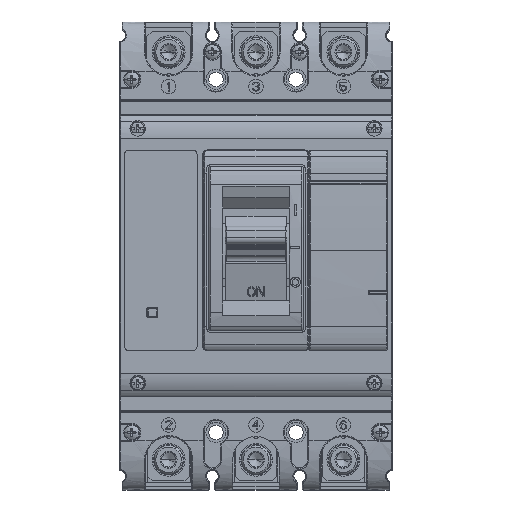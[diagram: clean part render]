
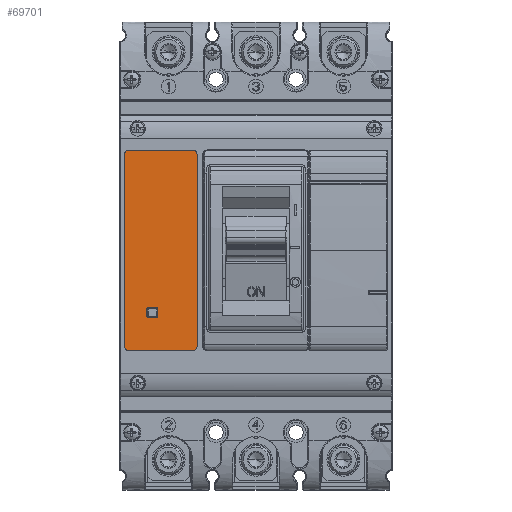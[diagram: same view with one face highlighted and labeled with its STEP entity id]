
A CAD part, top view. The second image highlights one B-rep face of the part: STEP entity #69701.
In plain terms, the highlighted planar face has unit normal (0, 0, 1) as drawn and (0, 1, 0) by its records, which use the part's own axes.
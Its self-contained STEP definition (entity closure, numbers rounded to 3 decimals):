
#3895 = ORIENTED_EDGE ( 'NONE', *, *, #137100, .T. ) ;
#3917 = VECTOR ( 'NONE', #70151, 1000. ) ;
#4614 = CARTESIAN_POINT ( 'NONE',  ( -70.2, 68.4, -55.9 ) ) ;
#5329 = CARTESIAN_POINT ( 'NONE',  ( -70.2, 68.4, 51.9 ) ) ;
#5619 = CARTESIAN_POINT ( 'NONE',  ( -34.4, 68.4, 51.9 ) ) ;
#8511 = CARTESIAN_POINT ( 'NONE',  ( -70.2, 68.4, -57.9 ) ) ;
#9488 = EDGE_CURVE ( 'NONE', #82910, #101829, #97426, .T. ) ;
#10422 = ORIENTED_EDGE ( 'NONE', *, *, #110750, .F. ) ;
#10463 = VERTEX_POINT ( 'NONE', #67632 ) ;
#10819 = ORIENTED_EDGE ( 'NONE', *, *, #40964, .T. ) ;
#12405 = CARTESIAN_POINT ( 'NONE',  ( -59.925, 68.4, 29.275 ) ) ;
#14069 = ORIENTED_EDGE ( 'NONE', *, *, #109201, .T. ) ;
#14501 = VERTEX_POINT ( 'NONE', #140572 ) ;
#15766 = LINE ( 'NONE', #5619, #3917 ) ;
#17049 = CIRCLE ( 'NONE', #44899, 1. ) ;
#17726 = AXIS2_PLACEMENT_3D ( 'NONE', #99736, #88895, #133076 ) ;
#17838 = VERTEX_POINT ( 'NONE', #20443 ) ;
#19822 = CARTESIAN_POINT ( 'NONE',  ( -55.075, 68.4, 28.275 ) ) ;
#20089 = CIRCLE ( 'NONE', #17726, 2. ) ;
#20443 = CARTESIAN_POINT ( 'NONE',  ( -54.075, 68.4, 33.125 ) ) ;
#20657 = CARTESIAN_POINT ( 'NONE',  ( -55.075, 68.4, 34.125 ) ) ;
#23916 = CARTESIAN_POINT ( 'NONE',  ( -70.2, 68.4, 49.9 ) ) ;
#26676 = VERTEX_POINT ( 'NONE', #46358 ) ;
#26879 = DIRECTION ( 'NONE',  ( 1., 0., 0. ) ) ;
#27238 = CIRCLE ( 'NONE', #101322, 1. ) ;
#27669 = VERTEX_POINT ( 'NONE', #63878 ) ;
#28510 = DIRECTION ( 'NONE',  ( 0., -1., 0. ) ) ;
#28532 = DIRECTION ( 'NONE',  ( 0., 0., -1. ) ) ;
#28930 = ORIENTED_EDGE ( 'NONE', *, *, #97937, .F. ) ;
#29056 = EDGE_LOOP ( 'NONE', ( #62764, #81681, #107950, #3895, #74613, #10819, #71265, #14069 ) ) ;
#29738 = CARTESIAN_POINT ( 'NONE',  ( -32.4, 68.4, -55.9 ) ) ;
#32023 = EDGE_CURVE ( 'NONE', #88118, #17838, #27238, .T. ) ;
#32137 = CARTESIAN_POINT ( 'NONE',  ( -58.925, 68.4, 28.275 ) ) ;
#32437 = EDGE_CURVE ( 'NONE', #46184, #10463, #99052, .T. ) ;
#32484 = VECTOR ( 'NONE', #79968, 1000. ) ;
#34014 = CARTESIAN_POINT ( 'NONE',  ( -58.925, 68.4, 33.125 ) ) ;
#35002 = LINE ( 'NONE', #100972, #32484 ) ;
#35536 = EDGE_CURVE ( 'NONE', #10463, #49191, #15766, .T. ) ;
#37005 = VERTEX_POINT ( 'NONE', #126276 ) ;
#38306 = EDGE_CURVE ( 'NONE', #86556, #39606, #105981, .T. ) ;
#39606 = VERTEX_POINT ( 'NONE', #12405 ) ;
#40585 = CARTESIAN_POINT ( 'NONE',  ( -32.4, 68.4, -55.9 ) ) ;
#40964 = EDGE_CURVE ( 'NONE', #82910, #17838, #45614, .T. ) ;
#44899 = AXIS2_PLACEMENT_3D ( 'NONE', #34014, #102083, #47037 ) ;
#45273 = AXIS2_PLACEMENT_3D ( 'NONE', #23916, #55823, #89898 ) ;
#45614 = LINE ( 'NONE', #72147, #53206 ) ;
#46184 = VERTEX_POINT ( 'NONE', #82972 ) ;
#46358 = CARTESIAN_POINT ( 'NONE',  ( -72.2, 68.4, 49.9 ) ) ;
#47037 = DIRECTION ( 'NONE',  ( -1., 0., 0. ) ) ;
#47185 = AXIS2_PLACEMENT_3D ( 'NONE', #4614, #28510, #116214 ) ;
#47264 = DIRECTION ( 'NONE',  ( 0., -1., 0. ) ) ;
#48419 = EDGE_CURVE ( 'NONE', #26676, #113845, #128482, .T. ) ;
#49191 = VERTEX_POINT ( 'NONE', #5329 ) ;
#49718 = DIRECTION ( 'NONE',  ( 0., 0., 1. ) ) ;
#50923 = FACE_BOUND ( 'NONE', #29056, .T. ) ;
#51016 = ORIENTED_EDGE ( 'NONE', *, *, #80019, .F. ) ;
#51312 = DIRECTION ( 'NONE',  ( 0., 0., 1. ) ) ;
#52172 = LINE ( 'NONE', #40585, #83400 ) ;
#52178 = CIRCLE ( 'NONE', #45273, 2. ) ;
#53034 = CARTESIAN_POINT ( 'NONE',  ( -55.075, 68.4, 29.275 ) ) ;
#53206 = VECTOR ( 'NONE', #49718, 1000. ) ;
#55823 = DIRECTION ( 'NONE',  ( 0., -1., 0. ) ) ;
#58256 = ORIENTED_EDGE ( 'NONE', *, *, #35536, .F. ) ;
#59437 = EDGE_CURVE ( 'NONE', #49191, #26676, #52178, .T. ) ;
#60915 = EDGE_CURVE ( 'NONE', #27669, #142770, #20089, .T. ) ;
#62039 = AXIS2_PLACEMENT_3D ( 'NONE', #137147, #95094, #137861 ) ;
#62764 = ORIENTED_EDGE ( 'NONE', *, *, #81801, .F. ) ;
#63446 = CIRCLE ( 'NONE', #47185, 2. ) ;
#63878 = CARTESIAN_POINT ( 'NONE',  ( -34.4, 68.4, -57.9 ) ) ;
#67632 = CARTESIAN_POINT ( 'NONE',  ( -34.4, 68.4, 51.9 ) ) ;
#69498 = CARTESIAN_POINT ( 'NONE',  ( -72.2, 68.4, -55.9 ) ) ;
#69667 = ORIENTED_EDGE ( 'NONE', *, *, #48419, .F. ) ;
#69701 = ADVANCED_FACE ( 'NONE', ( #119743, #50923 ), #108155, .T. ) ;
#70151 = DIRECTION ( 'NONE',  ( -1., 0., 0. ) ) ;
#71265 = ORIENTED_EDGE ( 'NONE', *, *, #32023, .F. ) ;
#72147 = CARTESIAN_POINT ( 'NONE',  ( -54.075, 68.4, 29.275 ) ) ;
#73394 = DIRECTION ( 'NONE',  ( 0., 0., -1. ) ) ;
#73604 = AXIS2_PLACEMENT_3D ( 'NONE', #132803, #47264, #80605 ) ;
#74613 = ORIENTED_EDGE ( 'NONE', *, *, #9488, .F. ) ;
#74785 = DIRECTION ( 'NONE',  ( 0., 1., 0. ) ) ;
#75715 = DIRECTION ( 'NONE',  ( 1., 0., 0. ) ) ;
#76761 = VERTEX_POINT ( 'NONE', #8511 ) ;
#77598 = AXIS2_PLACEMENT_3D ( 'NONE', #83556, #141442, #107449 ) ;
#79968 = DIRECTION ( 'NONE',  ( -1., 0., 0. ) ) ;
#80019 = EDGE_CURVE ( 'NONE', #113845, #76761, #63446, .T. ) ;
#80605 = DIRECTION ( 'NONE',  ( 1., 0., 0. ) ) ;
#81681 = ORIENTED_EDGE ( 'NONE', *, *, #100243, .T. ) ;
#81801 = EDGE_CURVE ( 'NONE', #37005, #14501, #17049, .T. ) ;
#82453 = ORIENTED_EDGE ( 'NONE', *, *, #32437, .F. ) ;
#82910 = VERTEX_POINT ( 'NONE', #98761 ) ;
#82972 = CARTESIAN_POINT ( 'NONE',  ( -32.4, 68.4, 49.9 ) ) ;
#83400 = VECTOR ( 'NONE', #96387, 1000. ) ;
#83556 = CARTESIAN_POINT ( 'NONE',  ( 74.9, 68.4, 0. ) ) ;
#83560 = CARTESIAN_POINT ( 'NONE',  ( -72.2, 68.4, 49.9 ) ) ;
#84195 = VECTOR ( 'NONE', #26879, 1000. ) ;
#86556 = VERTEX_POINT ( 'NONE', #32137 ) ;
#88053 = CARTESIAN_POINT ( 'NONE',  ( -55.075, 68.4, 33.125 ) ) ;
#88118 = VERTEX_POINT ( 'NONE', #20657 ) ;
#88895 = DIRECTION ( 'NONE',  ( 0., -1., 0. ) ) ;
#89224 = VECTOR ( 'NONE', #28532, 1000. ) ;
#89898 = DIRECTION ( 'NONE',  ( 0., 0., 1. ) ) ;
#94271 = LINE ( 'NONE', #104397, #84195 ) ;
#95094 = DIRECTION ( 'NONE',  ( 0., 1., 0. ) ) ;
#95106 = DIRECTION ( 'NONE',  ( 1., 0., 0. ) ) ;
#96387 = DIRECTION ( 'NONE',  ( 0., 0., 1. ) ) ;
#97426 = CIRCLE ( 'NONE', #115948, 1. ) ;
#97937 = EDGE_CURVE ( 'NONE', #76761, #27669, #94271, .T. ) ;
#98761 = CARTESIAN_POINT ( 'NONE',  ( -54.075, 68.4, 29.275 ) ) ;
#99052 = CIRCLE ( 'NONE', #73604, 2. ) ;
#99627 = DIRECTION ( 'NONE',  ( 0., 1., 0. ) ) ;
#99736 = CARTESIAN_POINT ( 'NONE',  ( -34.4, 68.4, -55.9 ) ) ;
#100243 = EDGE_CURVE ( 'NONE', #37005, #39606, #130692, .T. ) ;
#100972 = CARTESIAN_POINT ( 'NONE',  ( -55.075, 68.4, 34.125 ) ) ;
#101259 = EDGE_LOOP ( 'NONE', ( #69667, #118757, #58256, #82453, #10422, #122824, #28930, #51016 ) ) ;
#101322 = AXIS2_PLACEMENT_3D ( 'NONE', #88053, #99627, #51312 ) ;
#101829 = VERTEX_POINT ( 'NONE', #19822 ) ;
#102083 = DIRECTION ( 'NONE',  ( 0., 1., 0. ) ) ;
#104397 = CARTESIAN_POINT ( 'NONE',  ( -70.2, 68.4, -57.9 ) ) ;
#105981 = CIRCLE ( 'NONE', #62039, 1. ) ;
#106904 = CARTESIAN_POINT ( 'NONE',  ( -58.925, 68.4, 28.275 ) ) ;
#107449 = DIRECTION ( 'NONE',  ( 1., 0., 0. ) ) ;
#107693 = VECTOR ( 'NONE', #73394, 1000. ) ;
#107950 = ORIENTED_EDGE ( 'NONE', *, *, #38306, .F. ) ;
#108155 = PLANE ( 'NONE',  #77598 ) ;
#109201 = EDGE_CURVE ( 'NONE', #88118, #14501, #35002, .T. ) ;
#110750 = EDGE_CURVE ( 'NONE', #142770, #46184, #52172, .T. ) ;
#113845 = VERTEX_POINT ( 'NONE', #69498 ) ;
#114744 = VECTOR ( 'NONE', #75715, 1000. ) ;
#115948 = AXIS2_PLACEMENT_3D ( 'NONE', #53034, #74785, #95106 ) ;
#116214 = DIRECTION ( 'NONE',  ( -1., 0., 0. ) ) ;
#118757 = ORIENTED_EDGE ( 'NONE', *, *, #59437, .F. ) ;
#119743 = FACE_OUTER_BOUND ( 'NONE', #101259, .T. ) ;
#122824 = ORIENTED_EDGE ( 'NONE', *, *, #60915, .F. ) ;
#126276 = CARTESIAN_POINT ( 'NONE',  ( -59.925, 68.4, 33.125 ) ) ;
#127830 = CARTESIAN_POINT ( 'NONE',  ( -59.925, 68.4, 33.125 ) ) ;
#128482 = LINE ( 'NONE', #83560, #107693 ) ;
#130692 = LINE ( 'NONE', #127830, #89224 ) ;
#132803 = CARTESIAN_POINT ( 'NONE',  ( -34.4, 68.4, 49.9 ) ) ;
#133076 = DIRECTION ( 'NONE',  ( 0., 0., -1. ) ) ;
#137100 = EDGE_CURVE ( 'NONE', #86556, #101829, #141628, .T. ) ;
#137147 = CARTESIAN_POINT ( 'NONE',  ( -58.925, 68.4, 29.275 ) ) ;
#137861 = DIRECTION ( 'NONE',  ( 0., 0., -1. ) ) ;
#140572 = CARTESIAN_POINT ( 'NONE',  ( -58.925, 68.4, 34.125 ) ) ;
#141442 = DIRECTION ( 'NONE',  ( 0., 1., 0. ) ) ;
#141628 = LINE ( 'NONE', #106904, #114744 ) ;
#142770 = VERTEX_POINT ( 'NONE', #29738 ) ;
